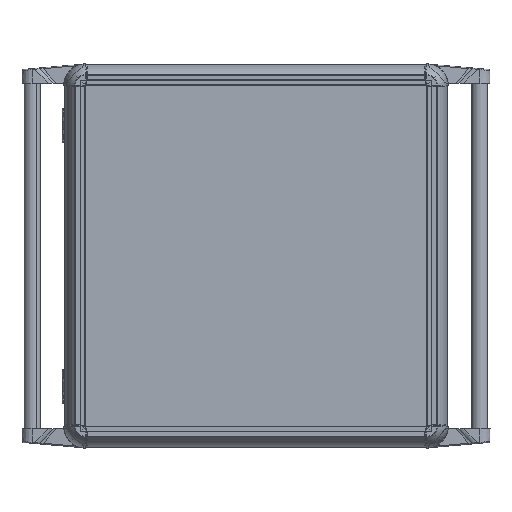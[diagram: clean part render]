
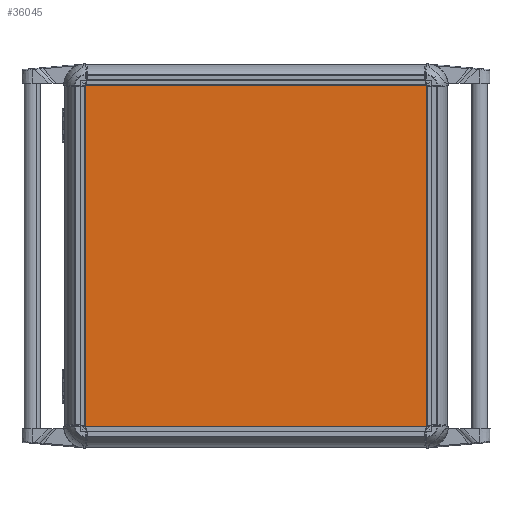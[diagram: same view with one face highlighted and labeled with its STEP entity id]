
A CAD part, top view. The second image highlights one B-rep face of the part: STEP entity #36045.
In plain terms, the highlighted planar face has unit normal (0, 0, 1).
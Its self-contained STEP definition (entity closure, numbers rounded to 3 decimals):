
#992 = EDGE_CURVE ( 'NONE', #91470, #159379, #67194, .T. ) ;
#2332 = DIRECTION ( 'NONE',  ( -1., 0., 0. ) ) ;
#19092 = ORIENTED_EDGE ( 'NONE', *, *, #72256, .T. ) ;
#24645 = PLANE ( 'NONE',  #164739 ) ;
#25165 = DIRECTION ( 'NONE',  ( 1., 0., 0. ) ) ;
#25609 = FACE_OUTER_BOUND ( 'NONE', #129717, .T. ) ;
#26570 = DIRECTION ( 'NONE',  ( 0., 0., 1. ) ) ;
#32277 = VERTEX_POINT ( 'NONE', #97186 ) ;
#36045 = ADVANCED_FACE ( 'NONE', ( #25609 ), #24645, .T. ) ;
#39693 = VECTOR ( 'NONE', #87429, 1000. ) ;
#42506 = LINE ( 'NONE', #103542, #39693 ) ;
#42593 = CARTESIAN_POINT ( 'NONE',  ( 0., 0., 2. ) ) ;
#48428 = CARTESIAN_POINT ( 'NONE',  ( -200., 200., 2. ) ) ;
#64257 = ORIENTED_EDGE ( 'NONE', *, *, #195280, .T. ) ;
#67194 = LINE ( 'NONE', #162124, #170140 ) ;
#72256 = EDGE_CURVE ( 'NONE', #156990, #91470, #119173, .T. ) ;
#84622 = ORIENTED_EDGE ( 'NONE', *, *, #992, .T. ) ;
#87429 = DIRECTION ( 'NONE',  ( 0., 1., 0. ) ) ;
#91470 = VERTEX_POINT ( 'NONE', #186655 ) ;
#97186 = CARTESIAN_POINT ( 'NONE',  ( 200., 200., 2. ) ) ;
#98448 = ORIENTED_EDGE ( 'NONE', *, *, #151329, .T. ) ;
#103542 = CARTESIAN_POINT ( 'NONE',  ( 200., 200., 2. ) ) ;
#109618 = CARTESIAN_POINT ( 'NONE',  ( 200., -200., 2. ) ) ;
#118623 = LINE ( 'NONE', #48428, #128082 ) ;
#119173 = LINE ( 'NONE', #182147, #160794 ) ;
#128082 = VECTOR ( 'NONE', #2332, 1000. ) ;
#129717 = EDGE_LOOP ( 'NONE', ( #64257, #98448, #19092, #84622 ) ) ;
#148556 = DIRECTION ( 'NONE',  ( 1., 0., 0. ) ) ;
#151329 = EDGE_CURVE ( 'NONE', #32277, #156990, #118623, .T. ) ;
#156990 = VERTEX_POINT ( 'NONE', #164514 ) ;
#159379 = VERTEX_POINT ( 'NONE', #109618 ) ;
#160794 = VECTOR ( 'NONE', #165107, 1000. ) ;
#162124 = CARTESIAN_POINT ( 'NONE',  ( -200., -200., 2. ) ) ;
#164514 = CARTESIAN_POINT ( 'NONE',  ( -200., 200., 2. ) ) ;
#164739 = AXIS2_PLACEMENT_3D ( 'NONE', #42593, #26570, #148556 ) ;
#165107 = DIRECTION ( 'NONE',  ( 0., -1., 0. ) ) ;
#170140 = VECTOR ( 'NONE', #25165, 1000. ) ;
#182147 = CARTESIAN_POINT ( 'NONE',  ( -200., 200., 2. ) ) ;
#186655 = CARTESIAN_POINT ( 'NONE',  ( -200., -200., 2. ) ) ;
#195280 = EDGE_CURVE ( 'NONE', #159379, #32277, #42506, .T. ) ;
